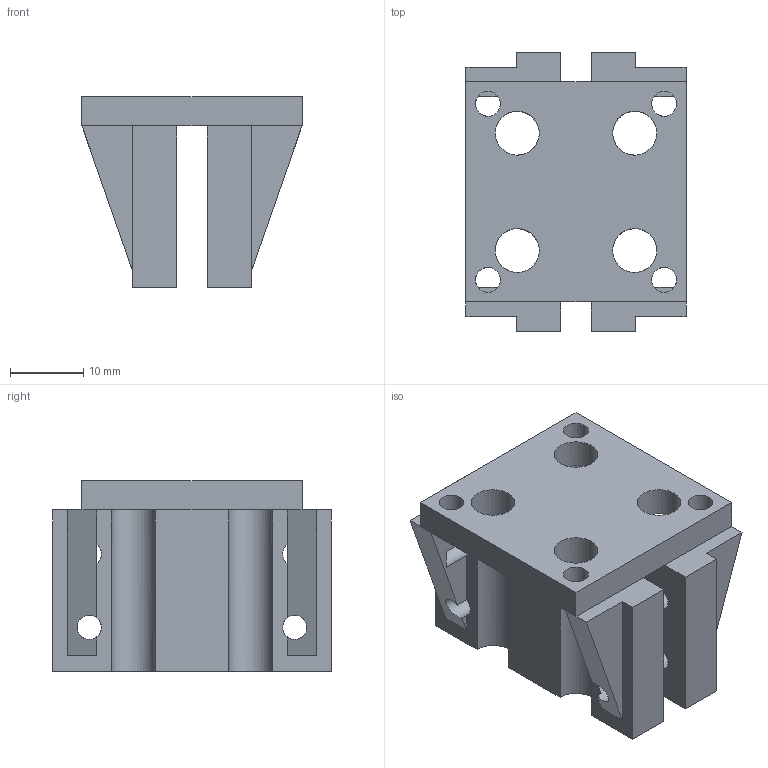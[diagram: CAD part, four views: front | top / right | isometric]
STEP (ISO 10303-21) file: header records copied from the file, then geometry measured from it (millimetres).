
FILE_DESCRIPTION(('Open CASCADE Model'),'2;1');
FILE_NAME('Open CASCADE Shape Model','2026-09-12T16:48:05',('Author'),( 'Open CASCADE'),'Open CASCADE STEP processor 7.9','Open CASCADE 7.9' ,'Unknown');
FILE_SCHEMA(('AUTOMOTIVE_DESIGN { 1 0 10303 214 1 1 1 1 }'));
Length unit declared in the file: millimetre
Products named in the file (1): Open CASCADE STEP translator 7.9 12
Bounding box: 30 x 38 x 26 mm (x, y, z)
Volume: 12276.3 mm3; surface area: 7928.7 mm2
Topology: 1 solids, 1 shells, 66 faces, 228 edges, 148 vertices
Faces by surface type: plane 50, cylinder 16
Full cylindrical faces by diameter (mm): 3.3 x8, 3.4 x4, 6 x4
Entity records: 5572 total; most frequent: CARTESIAN_POINT 1369, DIRECTION 708, ORIENTED_EDGE 456, PCURVE 456, DEFINITIONAL_REPRESENTATION 456, LINE 430, VECTOR 430, EDGE_CURVE 228
